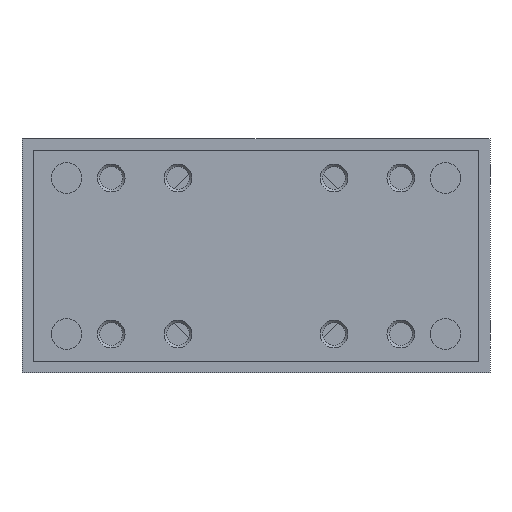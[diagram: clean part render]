
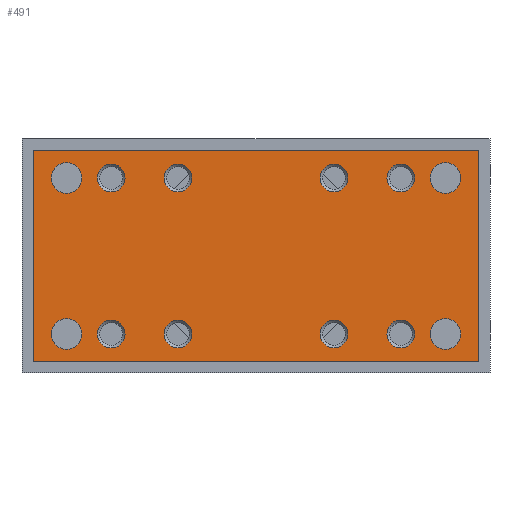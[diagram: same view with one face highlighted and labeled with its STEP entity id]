
A CAD part, left-side view. The second image highlights one B-rep face of the part: STEP entity #491.
In plain terms, the highlighted planar face has unit normal (-1, 0, 0).
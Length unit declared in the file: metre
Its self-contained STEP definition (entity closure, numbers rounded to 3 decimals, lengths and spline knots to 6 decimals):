
#491 = ADVANCED_FACE( '', ( #1149, #1150, #1151, #1152, #1153, #1154, #1155, #1156, #1157, #1158, #1159, #1160, #1161 ), #1162, .T. );
#1149 = FACE_BOUND( '', #1883, .T. );
#1150 = FACE_BOUND( '', #1884, .T. );
#1151 = FACE_BOUND( '', #1885, .T. );
#1152 = FACE_BOUND( '', #1886, .T. );
#1153 = FACE_BOUND( '', #1887, .T. );
#1154 = FACE_BOUND( '', #1888, .T. );
#1155 = FACE_BOUND( '', #1889, .T. );
#1156 = FACE_BOUND( '', #1890, .T. );
#1157 = FACE_BOUND( '', #1891, .T. );
#1158 = FACE_BOUND( '', #1892, .T. );
#1159 = FACE_BOUND( '', #1893, .T. );
#1160 = FACE_BOUND( '', #1894, .T. );
#1161 = FACE_OUTER_BOUND( '', #1895, .T. );
#1162 = PLANE( '', #1896 );
#1883 = EDGE_LOOP( '', ( #3032 ) );
#1884 = EDGE_LOOP( '', ( #3033 ) );
#1885 = EDGE_LOOP( '', ( #3034 ) );
#1886 = EDGE_LOOP( '', ( #3035 ) );
#1887 = EDGE_LOOP( '', ( #3036 ) );
#1888 = EDGE_LOOP( '', ( #3037 ) );
#1889 = EDGE_LOOP( '', ( #3038 ) );
#1890 = EDGE_LOOP( '', ( #3039 ) );
#1891 = EDGE_LOOP( '', ( #3040 ) );
#1892 = EDGE_LOOP( '', ( #3041 ) );
#1893 = EDGE_LOOP( '', ( #3042 ) );
#1894 = EDGE_LOOP( '', ( #3043 ) );
#1895 = EDGE_LOOP( '', ( #3044, #3045, #3046, #3047 ) );
#1896 = AXIS2_PLACEMENT_3D( '', #3048, #3049, #3050 );
#3032 = ORIENTED_EDGE( '', *, *, #3567, .F. );
#3033 = ORIENTED_EDGE( '', *, *, #3630, .F. );
#3034 = ORIENTED_EDGE( '', *, *, #3445, .F. );
#3035 = ORIENTED_EDGE( '', *, *, #3628, .F. );
#3036 = ORIENTED_EDGE( '', *, *, #3379, .T. );
#3037 = ORIENTED_EDGE( '', *, *, #3638, .F. );
#3038 = ORIENTED_EDGE( '', *, *, #3585, .F. );
#3039 = ORIENTED_EDGE( '', *, *, #3296, .T. );
#3040 = ORIENTED_EDGE( '', *, *, #3680, .T. );
#3041 = ORIENTED_EDGE( '', *, *, #3293, .F. );
#3042 = ORIENTED_EDGE( '', *, *, #3415, .F. );
#3043 = ORIENTED_EDGE( '', *, *, #3681, .T. );
#3044 = ORIENTED_EDGE( '', *, *, #3682, .T. );
#3045 = ORIENTED_EDGE( '', *, *, #3683, .T. );
#3046 = ORIENTED_EDGE( '', *, *, #3684, .T. );
#3047 = ORIENTED_EDGE( '', *, *, #3507, .T. );
#3048 = CARTESIAN_POINT( '', ( -0.062, -0.04, -0.002 ) );
#3049 = DIRECTION( '', ( -1., 0., 0. ) );
#3050 = DIRECTION( '', ( 0., -1., 0. ) );
#3293 = EDGE_CURVE( '', #3753, #3753, #3754, .T. );
#3296 = EDGE_CURVE( '', #3758, #3758, #3759, .T. );
#3379 = EDGE_CURVE( '', #3899, #3899, #3900, .T. );
#3415 = EDGE_CURVE( '', #3957, #3957, #3958, .T. );
#3445 = EDGE_CURVE( '', #4005, #4005, #4006, .T. );
#3507 = EDGE_CURVE( '', #4097, #4095, #4098, .T. );
#3567 = EDGE_CURVE( '', #4185, #4185, #4186, .T. );
#3585 = EDGE_CURVE( '', #4207, #4207, #4208, .T. );
#3628 = EDGE_CURVE( '', #4266, #4266, #4267, .T. );
#3630 = EDGE_CURVE( '', #4269, #4269, #4270, .T. );
#3638 = EDGE_CURVE( '', #4278, #4278, #4279, .T. );
#3680 = EDGE_CURVE( '', #4335, #4335, #4336, .T. );
#3681 = EDGE_CURVE( '', #4337, #4337, #4338, .T. );
#3682 = EDGE_CURVE( '', #4095, #4339, #4340, .T. );
#3683 = EDGE_CURVE( '', #4339, #4341, #4342, .T. );
#3684 = EDGE_CURVE( '', #4341, #4097, #4343, .T. );
#3753 = VERTEX_POINT( '', #4417 );
#3754 = CIRCLE( '', #4418, 0.0025 );
#3758 = VERTEX_POINT( '', #4422 );
#3759 = CIRCLE( '', #4423, 0.0025 );
#3899 = VERTEX_POINT( '', #4832 );
#3900 = CIRCLE( '', #4833, 0.0025 );
#3957 = VERTEX_POINT( '', #5106 );
#3958 = CIRCLE( '', #5107, 0.0025 );
#4005 = VERTEX_POINT( '', #5326 );
#4006 = CIRCLE( '', #5327, 0.00275 );
#4095 = VERTEX_POINT( '', #5543 );
#4097 = VERTEX_POINT( '', #5546 );
#4098 = LINE( '', #5547, #5548 );
#4185 = VERTEX_POINT( '', #5652 );
#4186 = CIRCLE( '', #5653, 0.00275 );
#4207 = VERTEX_POINT( '', #5676 );
#4208 = CIRCLE( '', #5677, 0.0025 );
#4266 = VERTEX_POINT( '', #5748 );
#4267 = CIRCLE( '', #5749, 0.00275 );
#4269 = VERTEX_POINT( '', #5751 );
#4270 = CIRCLE( '', #5752, 0.00275 );
#4278 = VERTEX_POINT( '', #5761 );
#4279 = CIRCLE( '', #5762, 0.0025 );
#4335 = VERTEX_POINT( '', #5902 );
#4336 = CIRCLE( '', #5903, 0.0025 );
#4337 = VERTEX_POINT( '', #5904 );
#4338 = CIRCLE( '', #5905, 0.0025 );
#4339 = VERTEX_POINT( '', #5906 );
#4340 = LINE( '', #5907, #5908 );
#4341 = VERTEX_POINT( '', #5909 );
#4342 = LINE( '', #5910, #5911 );
#4343 = LINE( '', #5912, #5913 );
#4417 = CARTESIAN_POINT( '', ( -0.062, 0.014, -0.0375 ) );
#4418 = AXIS2_PLACEMENT_3D( '', #5983, #5984, #5985 );
#4422 = CARTESIAN_POINT( '', ( -0.062, 0.026, -0.0045 ) );
#4423 = AXIS2_PLACEMENT_3D( '', #5989, #5990, #5991 );
#4832 = CARTESIAN_POINT( '', ( -0.062, -0.026, -0.0375 ) );
#4833 = AXIS2_PLACEMENT_3D( '', #6115, #6116, #6117 );
#5106 = CARTESIAN_POINT( '', ( -0.062, -0.014, -0.0045 ) );
#5107 = AXIS2_PLACEMENT_3D( '', #6167, #6168, #6169 );
#5326 = CARTESIAN_POINT( '', ( -0.062, -0.03675, -0.007 ) );
#5327 = AXIS2_PLACEMENT_3D( '', #6218, #6219, #6220 );
#5543 = CARTESIAN_POINT( '', ( -0.062, -0.04, -0.04 ) );
#5546 = CARTESIAN_POINT( '', ( -0.062, 0.04, -0.04 ) );
#5547 = CARTESIAN_POINT( '', ( -0.062, 0.04, -0.04 ) );
#5548 = VECTOR( '', #6307, 1. );
#5652 = CARTESIAN_POINT( '', ( -0.062, -0.03675, -0.035 ) );
#5653 = AXIS2_PLACEMENT_3D( '', #6382, #6383, #6384 );
#5676 = CARTESIAN_POINT( '', ( -0.062, -0.026, -0.0045 ) );
#5677 = AXIS2_PLACEMENT_3D( '', #6402, #6403, #6404 );
#5748 = CARTESIAN_POINT( '', ( -0.062, 0.03125, -0.007 ) );
#5749 = AXIS2_PLACEMENT_3D( '', #6451, #6452, #6453 );
#5751 = CARTESIAN_POINT( '', ( -0.062, 0.03125, -0.035 ) );
#5752 = AXIS2_PLACEMENT_3D( '', #6454, #6455, #6456 );
#5761 = CARTESIAN_POINT( '', ( -0.062, 0.026, -0.0375 ) );
#5762 = AXIS2_PLACEMENT_3D( '', #6461, #6462, #6463 );
#5902 = CARTESIAN_POINT( '', ( -0.062, -0.014, -0.0375 ) );
#5903 = AXIS2_PLACEMENT_3D( '', #6509, #6510, #6511 );
#5904 = CARTESIAN_POINT( '', ( -0.062, 0.014, -0.0045 ) );
#5905 = AXIS2_PLACEMENT_3D( '', #6512, #6513, #6514 );
#5906 = CARTESIAN_POINT( '', ( -0.062, -0.04, -0.002 ) );
#5907 = CARTESIAN_POINT( '', ( -0.062, -0.04, -0.04 ) );
#5908 = VECTOR( '', #6515, 1. );
#5909 = CARTESIAN_POINT( '', ( -0.062, 0.04, -0.002 ) );
#5910 = CARTESIAN_POINT( '', ( -0.062, -0.04, -0.002 ) );
#5911 = VECTOR( '', #6516, 1. );
#5912 = CARTESIAN_POINT( '', ( -0.062, 0.04, -0.002 ) );
#5913 = VECTOR( '', #6517, 1. );
#5983 = CARTESIAN_POINT( '', ( -0.062, 0.014, -0.035 ) );
#5984 = DIRECTION( '', ( -1., 0., 0. ) );
#5985 = DIRECTION( '', ( 0., 0., -1. ) );
#5989 = CARTESIAN_POINT( '', ( -0.062, 0.026, -0.007 ) );
#5990 = DIRECTION( '', ( 1., 0., 0. ) );
#5991 = DIRECTION( '', ( 0., 0., 1. ) );
#6115 = CARTESIAN_POINT( '', ( -0.062, -0.026, -0.035 ) );
#6116 = DIRECTION( '', ( 1., 0., 0. ) );
#6117 = DIRECTION( '', ( 0., 0., -1. ) );
#6167 = CARTESIAN_POINT( '', ( -0.062, -0.014, -0.007 ) );
#6168 = DIRECTION( '', ( -1., 0., 0. ) );
#6169 = DIRECTION( '', ( 0., 0., 1. ) );
#6218 = CARTESIAN_POINT( '', ( -0.062, -0.034, -0.007 ) );
#6219 = DIRECTION( '', ( -1., 0., 0. ) );
#6220 = DIRECTION( '', ( 0., -1., 0. ) );
#6307 = DIRECTION( '', ( 0., -1., 0. ) );
#6382 = CARTESIAN_POINT( '', ( -0.062, -0.034, -0.035 ) );
#6383 = DIRECTION( '', ( -1., 0., 0. ) );
#6384 = DIRECTION( '', ( 0., -1., 0. ) );
#6402 = CARTESIAN_POINT( '', ( -0.062, -0.026, -0.007 ) );
#6403 = DIRECTION( '', ( -1., 0., 0. ) );
#6404 = DIRECTION( '', ( 0., 0., 1. ) );
#6451 = CARTESIAN_POINT( '', ( -0.062, 0.034, -0.007 ) );
#6452 = DIRECTION( '', ( -1., 0., 0. ) );
#6453 = DIRECTION( '', ( 0., -1., 0. ) );
#6454 = CARTESIAN_POINT( '', ( -0.062, 0.034, -0.035 ) );
#6455 = DIRECTION( '', ( -1., 0., 0. ) );
#6456 = DIRECTION( '', ( 0., -1., 0. ) );
#6461 = CARTESIAN_POINT( '', ( -0.062, 0.026, -0.035 ) );
#6462 = DIRECTION( '', ( -1., 0., 0. ) );
#6463 = DIRECTION( '', ( 0., 0., -1. ) );
#6509 = CARTESIAN_POINT( '', ( -0.062, -0.014, -0.035 ) );
#6510 = DIRECTION( '', ( 1., 0., 0. ) );
#6511 = DIRECTION( '', ( 0., 0., -1. ) );
#6512 = CARTESIAN_POINT( '', ( -0.062, 0.014, -0.007 ) );
#6513 = DIRECTION( '', ( 1., 0., 0. ) );
#6514 = DIRECTION( '', ( 0., 0., 1. ) );
#6515 = DIRECTION( '', ( 0., 0., 1. ) );
#6516 = DIRECTION( '', ( 0., 1., 0. ) );
#6517 = DIRECTION( '', ( 0., 0., -1. ) );
